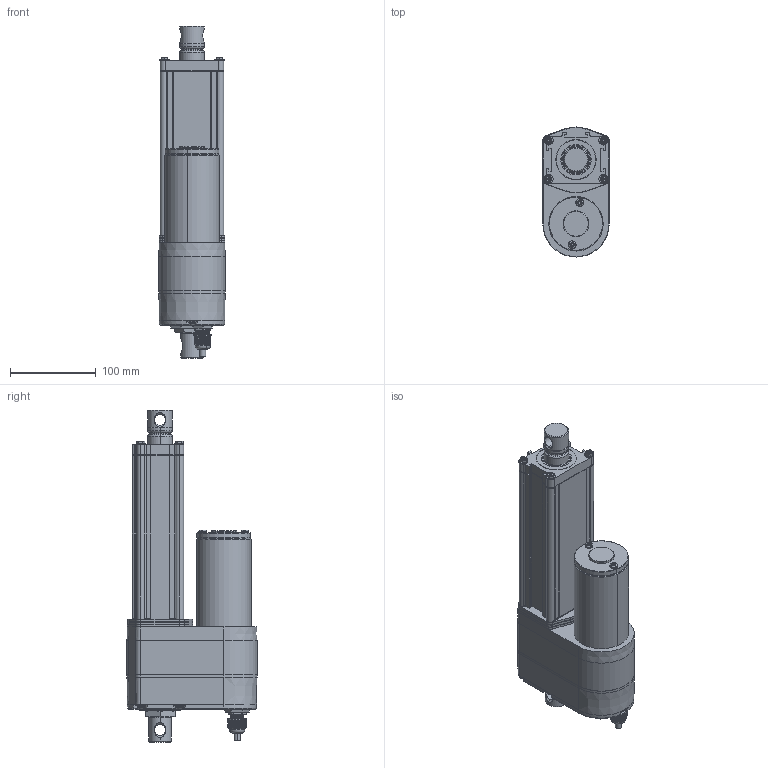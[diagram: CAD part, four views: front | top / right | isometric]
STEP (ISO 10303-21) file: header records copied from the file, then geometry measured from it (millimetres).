
FILE_DESCRIPTION (( 'STEP AP203' ), '1' );
FILE_NAME ('ID12-A-100-LT&POT-IP69K.STEP', '2022-10-19T09:00:21', ( '' ), ( '' ), 'SwSTEP 2.0', 'SolidWorks 2020', '' );
FILE_SCHEMA (( 'CONFIG_CONTROL_DESIGN' ));
Length unit declared in the file: millimetre
Products named in the file (3): ID12-A-100-LT&POT-IP69K; ID12-A-2; ID12-A-1
Assembly tree (2 placements, depth 2):
  ID12-A-100-LT&POT-IP69K
    ID12-A-1
    ID12-A-2
Bounding box: 77.3 x 151.8 x 387.5 mm (x, y, z)
Volume: 2155276.5 mm3; surface area: 225078.8 mm2
Topology: 2 solids, 30 shells, 2583 faces, 6647 edges, 4210 vertices
Faces by surface type: plane 1369, cylinder 785, bspline 163, cone 127, torus 123, sphere 16
Entity records: 87950 total; most frequent: CARTESIAN_POINT 27806, ORIENTED_EDGE 13258, DIRECTION 11684, EDGE_CURVE 6629, VERTEX_POINT 4210, AXIS2_PLACEMENT_3D 4205, LINE 3274, VECTOR 3274
